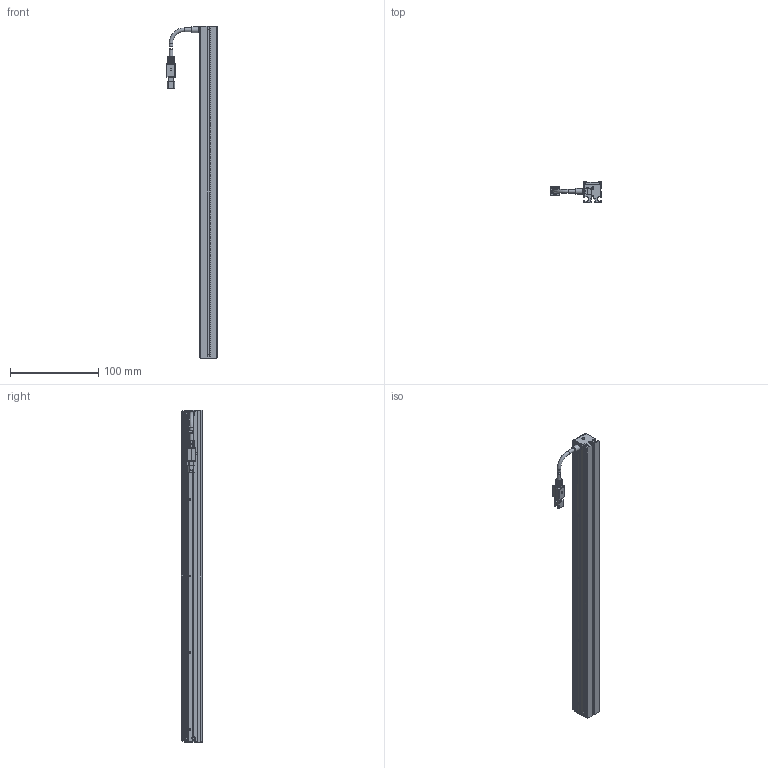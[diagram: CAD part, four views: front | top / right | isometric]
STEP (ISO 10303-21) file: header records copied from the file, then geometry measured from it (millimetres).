
FILE_DESCRIPTION (( 'STEP AP203' ), '1' );
FILE_NAME ('OPT-ULI37620-UV-V1.0U 尨砩芞.STEP', '2024-12-11T03:09:12', ( '' ), ( '' ), 'SwSTEP 2.0', 'SolidWorks 2016', '' );
FILE_SCHEMA (( 'CONFIG_CONTROL_DESIGN' ));
Length unit declared in the file: millimetre
Products named in the file (1): OPT-ULI37620-UV-V1.0U 尨砩芞
Bounding box: 57.6 x 24 x 376 mm (x, y, z)
Volume: 144406.2 mm3; surface area: 64061.1 mm2
Topology: 5 solids, 15 shells, 610 faces, 1580 edges, 1027 vertices
Faces by surface type: plane 418, cylinder 137, cone 30, bspline 17, torus 8
Full cylindrical faces by diameter (mm): 1.1 x2, 1.4 x4, 1.6 x9, 2 x17, 2.4 x7, 2.5 x2, 2.6 x2, 3 x2, 4.1 x4, 6.5 x1, 7 x1, 7.5 x1
Entity records: 18493 total; most frequent: CARTESIAN_POINT 4216, ORIENTED_EDGE 2902, DIRECTION 2830, EDGE_CURVE 1451, LINE 1000, VECTOR 1000, VERTEX_POINT 980, AXIS2_PLACEMENT_3D 915
